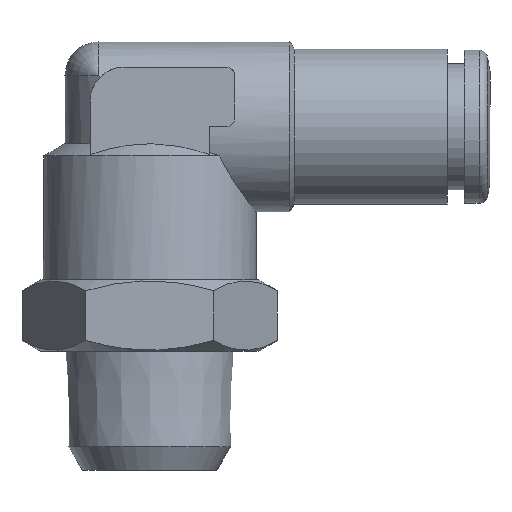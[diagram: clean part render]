
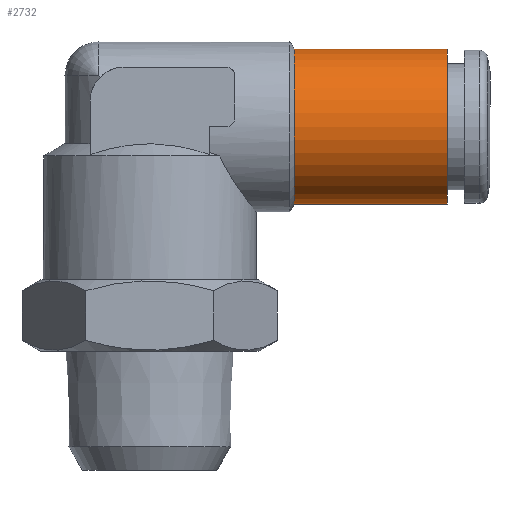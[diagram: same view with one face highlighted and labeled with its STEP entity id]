
A CAD part, front view. The second image highlights one B-rep face of the part: STEP entity #2732.
In plain terms, the highlighted cylindrical face has radius 4.55 mm (diameter 9.1 mm), a full revolution.
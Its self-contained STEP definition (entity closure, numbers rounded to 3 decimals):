
#1398=CYLINDRICAL_SURFACE('',#2587,4.55);
#1525=ORIENTED_EDGE('',*,*,#1883,.T.);
#1526=ORIENTED_EDGE('',*,*,#1882,.F.);
#1695=CIRCLE('',#2586,4.55);
#1696=CIRCLE('',#2588,4.55);
#1779=VERTEX_POINT('',#4039);
#1780=VERTEX_POINT('',#4042);
#1882=EDGE_CURVE('',#1779,#1779,#1695,.T.);
#1883=EDGE_CURVE('',#1780,#1780,#1696,.T.);
#1988=EDGE_LOOP('',(#1525));
#1989=EDGE_LOOP('',(#1526));
#2105=FACE_BOUND('',#1988,.T.);
#2106=FACE_BOUND('',#1989,.T.);
#2316=DIRECTION('',(-1.,0.,0.));
#2317=DIRECTION('',(0.,4.55,0.));
#2318=DIRECTION('',(-1.,0.,0.));
#2319=DIRECTION('',(0.,1.,0.));
#2320=DIRECTION('',(-1.,0.,0.));
#2321=DIRECTION('',(0.,4.55,0.));
#2586=AXIS2_PLACEMENT_3D('',#4040,#2316,#2317);
#2587=AXIS2_PLACEMENT_3D('',#4041,#2318,#2319);
#2588=AXIS2_PLACEMENT_3D('',#4043,#2320,#2321);
#2732=ADVANCED_FACE('',(#2105,#2106),#1398,.T.);
#4039=CARTESIAN_POINT('',(25.447,28.638,0.));
#4040=CARTESIAN_POINT('',(25.447,24.088,0.));
#4041=CARTESIAN_POINT('',(34.447,24.088,0.));
#4042=CARTESIAN_POINT('',(34.447,28.638,0.));
#4043=CARTESIAN_POINT('',(34.447,24.088,0.));
